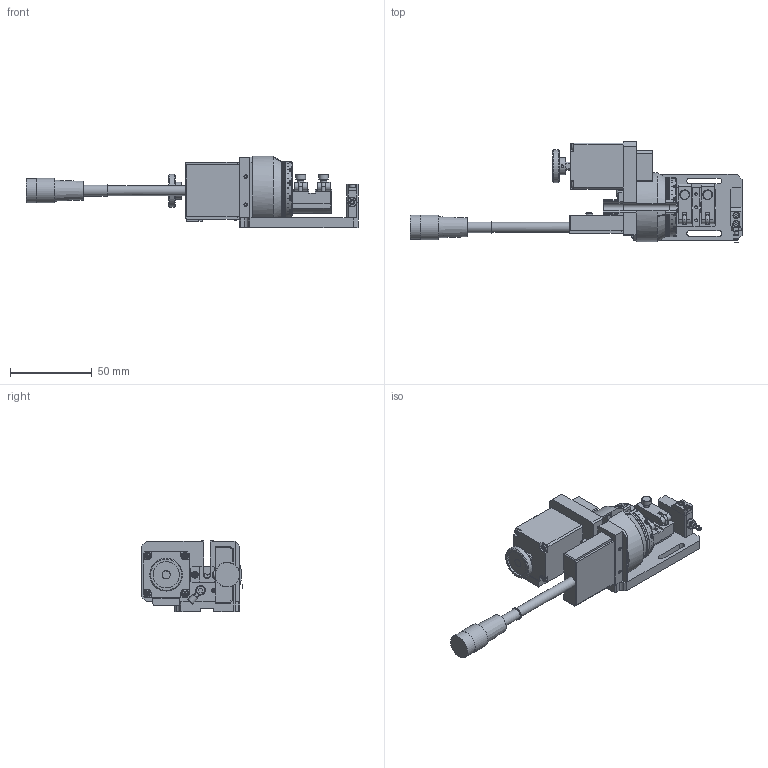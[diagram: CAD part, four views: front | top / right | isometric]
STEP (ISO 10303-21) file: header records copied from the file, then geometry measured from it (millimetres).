
FILE_DESCRIPTION(/* description */ (''),/* implementation_level */ '2;1');
FILE_NAME(/* name */ '\\fs301\share\Public_Div\生産本部_光学機器部\1_MEKA\1_motorized_stages\01_国内製品\50_FHRA\FHRAW\FHRAW-125_900R\Webダウンロード用データ\FHRAW-125_900R_STP.stp',/* time_stamp */ '2023-03-22T18:35:56+09:00',/* author */ ('ta.murata'),/* organization */ (''),/* preprocessor_version */ 'ST-DEVELOPER v18.1',/* originating_system */ 'Autodesk Inventor 2021',/* authorisation */ '');
FILE_SCHEMA (('AUTOMOTIVE_DESIGN { 1 0 10303 214 3 1 1 }'));
Products named in the file (3): FHRAW129R-M02-23001-TS01; FHRAW122R-M02-23001-S01; FHRAW129R-M02-23001-S02
Assembly tree (2 placements, depth 2):
  FHRAW129R-M02-23001-TS01
    FHRAW122R-M02-23001-S01
    FHRAW129R-M02-23001-S02
Bounding box: 202.5 x 61.5 x 43.4 mm (x, y, z)
Volume: 113837.1 mm3; surface area: 49253.8 mm2
Topology: 2 solids, 73 shells, 2653 faces, 6914 edges, 4544 vertices
Faces by surface type: plane 1559, cylinder 563, bspline 362, cone 161, torus 6, sphere 2
Full cylindrical faces by diameter (mm): 1.5 x5, 1.567 x1, 1.6 x13, 1.8 x1, 2 x22, 2.013 x4, 2.1 x9, 2.113 x4, 2.2 x10, 2.3 x1, 2.459 x2, 2.5 x19, 2.6 x4, 2.7 x2, 2.9 x2, 3 x20, 3.2 x1, 3.5 x6, 3.8 x15, 4 x7, 4.2 x4, 4.3 x1, 4.5 x12, 5 x3, 5.5 x14, 6 x15, 6.5 x1, 7 x3, 7.5 x1, 10 x1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
Entity records: 92072 total; most frequent: CARTESIAN_POINT 26400, ORIENTED_EDGE 13800, DIRECTION 12454, EDGE_CURVE 6900, VERTEX_POINT 4548, LINE 4256, VECTOR 4256, AXIS2_PLACEMENT_3D 4099
